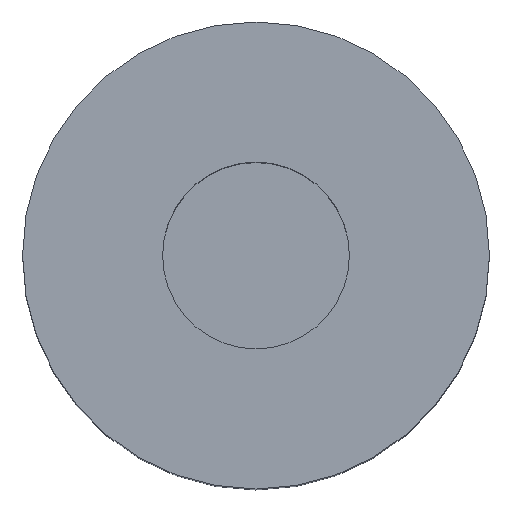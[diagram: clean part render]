
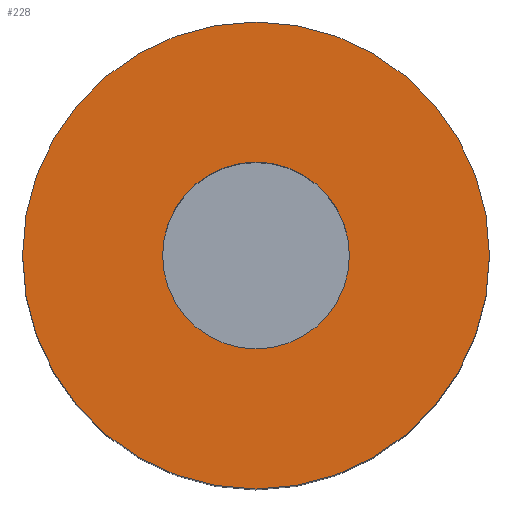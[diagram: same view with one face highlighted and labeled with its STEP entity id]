
A CAD part, top view. The second image highlights one B-rep face of the part: STEP entity #228.
In plain terms, the highlighted planar face has unit normal (0, 0, 1).
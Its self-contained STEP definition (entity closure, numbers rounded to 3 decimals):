
#29=CARTESIAN_POINT('',(0.,0.,49.));
#30=DIRECTION('',(0.,0.,-1.));
#31=DIRECTION('',(-1.,0.,0.));
#32=AXIS2_PLACEMENT_3D('',#29,#30,#31);
#34=CARTESIAN_POINT('',(0.,0.,49.));
#35=DIRECTION('',(0.,0.,-1.));
#36=DIRECTION('',(1.,0.,0.));
#37=AXIS2_PLACEMENT_3D('',#34,#35,#36);
#39=CARTESIAN_POINT('',(0.,0.,49.));
#40=DIRECTION('',(0.,0.,1.));
#41=DIRECTION('',(1.,0.,0.));
#42=AXIS2_PLACEMENT_3D('',#39,#40,#41);
#44=CARTESIAN_POINT('',(0.,0.,49.));
#45=DIRECTION('',(0.,0.,1.));
#46=DIRECTION('',(-1.,0.,0.));
#47=AXIS2_PLACEMENT_3D('',#44,#45,#46);
#139=CARTESIAN_POINT('',(20.,0.,49.));
#140=VERTEX_POINT('',#139);
#141=CARTESIAN_POINT('',(-20.,0.,49.));
#142=VERTEX_POINT('',#141);
#143=CARTESIAN_POINT('',(8.,0.,49.));
#144=CARTESIAN_POINT('',(-8.,0.,49.));
#145=VERTEX_POINT('',#143);
#146=VERTEX_POINT('',#144);
#213=CARTESIAN_POINT('',(0.,0.,49.));
#214=DIRECTION('',(0.,0.,1.));
#215=DIRECTION('',(1.,0.,0.));
#216=AXIS2_PLACEMENT_3D('',#213,#214,#215);
#217=PLANE('',#216);
#218=ORIENTED_EDGE('',*,*,#193,.T.);
#219=ORIENTED_EDGE('',*,*,#207,.T.);
#220=EDGE_LOOP('',(#218,#219));
#221=FACE_OUTER_BOUND('',#220,.F.);
#223=ORIENTED_EDGE('',*,*,#222,.T.);
#225=ORIENTED_EDGE('',*,*,#224,.T.);
#226=EDGE_LOOP('',(#223,#225));
#227=FACE_BOUND('',#226,.F.);
#33=CIRCLE('',#32,20.);
#38=CIRCLE('',#37,20.);
#43=CIRCLE('',#42,8.);
#48=CIRCLE('',#47,8.);
#193=EDGE_CURVE('',#142,#140,#33,.T.);
#207=EDGE_CURVE('',#140,#142,#38,.T.);
#222=EDGE_CURVE('',#145,#146,#43,.T.);
#224=EDGE_CURVE('',#146,#145,#48,.T.);
#228=ADVANCED_FACE('',(#221,#227),#217,.T.);
